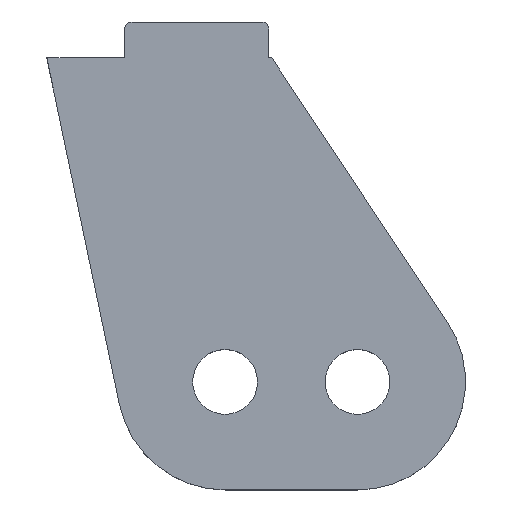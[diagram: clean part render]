
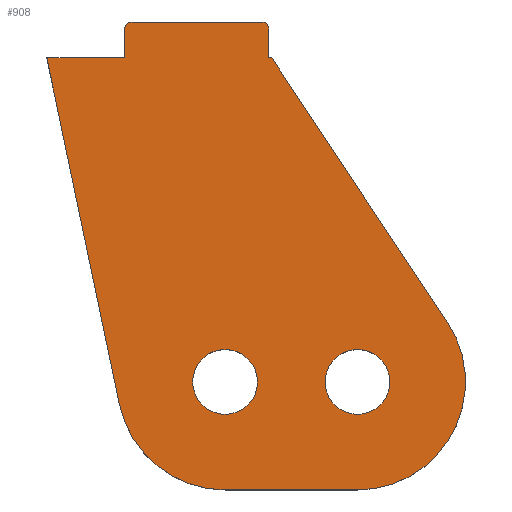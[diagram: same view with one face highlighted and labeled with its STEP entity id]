
A CAD part, top view. The second image highlights one B-rep face of the part: STEP entity #908.
In plain terms, the highlighted planar face has unit normal (0, 0, 1).
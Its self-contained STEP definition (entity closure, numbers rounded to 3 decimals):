
#423=CIRCLE('',#859,1.);
#425=CIRCLE('',#865,15.);
#427=CIRCLE('',#869,15.);
#429=CIRCLE('',#875,1.);
#432=CIRCLE('',#880,4.5);
#433=CIRCLE('',#882,4.5);
#504=ORIENTED_EDGE('',*,*,#607,.T.);
#505=ORIENTED_EDGE('',*,*,#639,.T.);
#506=ORIENTED_EDGE('',*,*,#637,.F.);
#507=ORIENTED_EDGE('',*,*,#634,.F.);
#508=ORIENTED_EDGE('',*,*,#631,.F.);
#509=ORIENTED_EDGE('',*,*,#628,.F.);
#510=ORIENTED_EDGE('',*,*,#625,.T.);
#511=ORIENTED_EDGE('',*,*,#622,.T.);
#512=ORIENTED_EDGE('',*,*,#619,.F.);
#513=ORIENTED_EDGE('',*,*,#616,.F.);
#514=ORIENTED_EDGE('',*,*,#613,.T.);
#515=ORIENTED_EDGE('',*,*,#610,.F.);
#516=ORIENTED_EDGE('',*,*,#642,.F.);
#517=ORIENTED_EDGE('',*,*,#643,.F.);
#523=VECTOR('',#693,1.);
#527=VECTOR('',#705,1.);
#530=VECTOR('',#710,1.);
#533=VECTOR('',#715,1.);
#537=VECTOR('',#727,1.);
#541=VECTOR('',#739,1.);
#544=VECTOR('',#744,1.);
#547=VECTOR('',#749,1.);
#551=LINE('',#780,#523);
#555=LINE('',#792,#527);
#558=LINE('',#798,#530);
#561=LINE('',#804,#533);
#565=LINE('',#816,#537);
#569=LINE('',#828,#541);
#572=LINE('',#834,#544);
#575=LINE('',#840,#547);
#577=VERTEX_POINT('',#774);
#579=VERTEX_POINT('',#778);
#581=VERTEX_POINT('',#783);
#583=VERTEX_POINT('',#789);
#585=VERTEX_POINT('',#795);
#587=VERTEX_POINT('',#801);
#589=VERTEX_POINT('',#807);
#591=VERTEX_POINT('',#813);
#593=VERTEX_POINT('',#819);
#595=VERTEX_POINT('',#825);
#597=VERTEX_POINT('',#831);
#599=VERTEX_POINT('',#837);
#602=VERTEX_POINT('',#850);
#603=VERTEX_POINT('',#853);
#607=EDGE_CURVE('',#577,#579,#551,.T.);
#610=EDGE_CURVE('',#577,#581,#423,.T.);
#613=EDGE_CURVE('',#583,#581,#555,.T.);
#616=EDGE_CURVE('',#583,#585,#558,.T.);
#619=EDGE_CURVE('',#585,#587,#561,.T.);
#622=EDGE_CURVE('',#589,#587,#425,.T.);
#625=EDGE_CURVE('',#591,#589,#565,.T.);
#628=EDGE_CURVE('',#591,#593,#427,.T.);
#631=EDGE_CURVE('',#593,#595,#569,.T.);
#634=EDGE_CURVE('',#595,#597,#572,.T.);
#637=EDGE_CURVE('',#597,#599,#575,.T.);
#639=EDGE_CURVE('',#579,#599,#429,.T.);
#642=EDGE_CURVE('',#602,#602,#432,.T.);
#643=EDGE_CURVE('',#603,#603,#433,.T.);
#661=EDGE_LOOP('',(#504,#505,#506,#507,#508,#509,#510,#511,#512,#513,#514,
#515));
#662=EDGE_LOOP('',(#516));
#663=EDGE_LOOP('',(#517));
#683=FACE_BOUND('',#661,.T.);
#684=FACE_BOUND('',#662,.T.);
#685=FACE_BOUND('',#663,.T.);
#693=DIRECTION('',(-18.,0.,0.));
#699=DIRECTION('',(0.,0.,-1.));
#700=DIRECTION('',(0.,-1.,0.));
#705=DIRECTION('',(0.,4.,0.));
#710=DIRECTION('',(0.437,0.,0.));
#715=DIRECTION('',(24.383,-36.699,0.));
#721=DIRECTION('',(0.,0.,1.));
#722=DIRECTION('',(0.,15.,0.));
#727=DIRECTION('',(18.395,0.,0.));
#733=DIRECTION('',(0.,0.,-1.));
#734=DIRECTION('',(0.,-15.,0.));
#739=DIRECTION('',(-10.081,48.078,0.));
#744=DIRECTION('',(10.831,0.,0.));
#749=DIRECTION('',(0.,4.,0.));
#754=DIRECTION('',(0.,0.,1.));
#755=DIRECTION('',(0.,1.,0.));
#764=DIRECTION('',(0.,0.,1.));
#765=DIRECTION('',(0.,-4.5,0.));
#766=DIRECTION('',(0.,0.,1.));
#767=DIRECTION('',(0.,-1.,0.));
#768=DIRECTION('',(0.,0.,1.));
#769=DIRECTION('',(0.,-4.5,0.));
#774=CARTESIAN_POINT('',(6903.504,13791.36,8.));
#778=CARTESIAN_POINT('',(6885.504,13791.36,8.));
#780=CARTESIAN_POINT('',(6903.504,13791.36,8.));
#783=CARTESIAN_POINT('',(6904.504,13790.36,8.));
#786=CARTESIAN_POINT('',(6903.504,13790.36,8.));
#789=CARTESIAN_POINT('',(6904.504,13786.36,8.));
#792=CARTESIAN_POINT('',(6904.504,13786.36,8.));
#795=CARTESIAN_POINT('',(6904.94,13786.36,8.));
#798=CARTESIAN_POINT('',(6904.504,13786.36,8.));
#801=CARTESIAN_POINT('',(6929.323,13749.661,8.));
#804=CARTESIAN_POINT('',(6904.94,13786.36,8.));
#807=CARTESIAN_POINT('',(6916.829,13726.36,8.));
#810=CARTESIAN_POINT('',(6916.829,13741.36,8.));
#813=CARTESIAN_POINT('',(6898.434,13726.36,8.));
#816=CARTESIAN_POINT('',(6898.434,13726.36,8.));
#819=CARTESIAN_POINT('',(6883.753,13738.282,8.));
#822=CARTESIAN_POINT('',(6898.434,13741.36,8.));
#825=CARTESIAN_POINT('',(6873.673,13786.36,8.));
#828=CARTESIAN_POINT('',(6883.753,13738.282,8.));
#831=CARTESIAN_POINT('',(6884.504,13786.36,8.));
#834=CARTESIAN_POINT('',(6873.673,13786.36,8.));
#837=CARTESIAN_POINT('',(6884.504,13790.36,8.));
#840=CARTESIAN_POINT('',(6884.504,13786.36,8.));
#843=CARTESIAN_POINT('',(6885.504,13790.36,8.));
#850=CARTESIAN_POINT('',(6898.434,13736.86,8.));
#851=CARTESIAN_POINT('',(6898.434,13741.36,8.));
#852=CARTESIAN_POINT('',(0.,0.,8.));
#853=CARTESIAN_POINT('',(6916.829,13736.86,8.));
#854=CARTESIAN_POINT('',(6916.829,13741.36,8.));
#859=AXIS2_PLACEMENT_3D('',#786,#699,#700);
#865=AXIS2_PLACEMENT_3D('',#810,#721,#722);
#869=AXIS2_PLACEMENT_3D('',#822,#733,#734);
#875=AXIS2_PLACEMENT_3D('',#843,#754,#755);
#880=AXIS2_PLACEMENT_3D('',#851,#764,#765);
#881=AXIS2_PLACEMENT_3D('',#852,#766,#767);
#882=AXIS2_PLACEMENT_3D('',#854,#768,#769);
#893=PLANE('',#881);
#908=ADVANCED_FACE('',(#683,#684,#685),#893,.T.);
